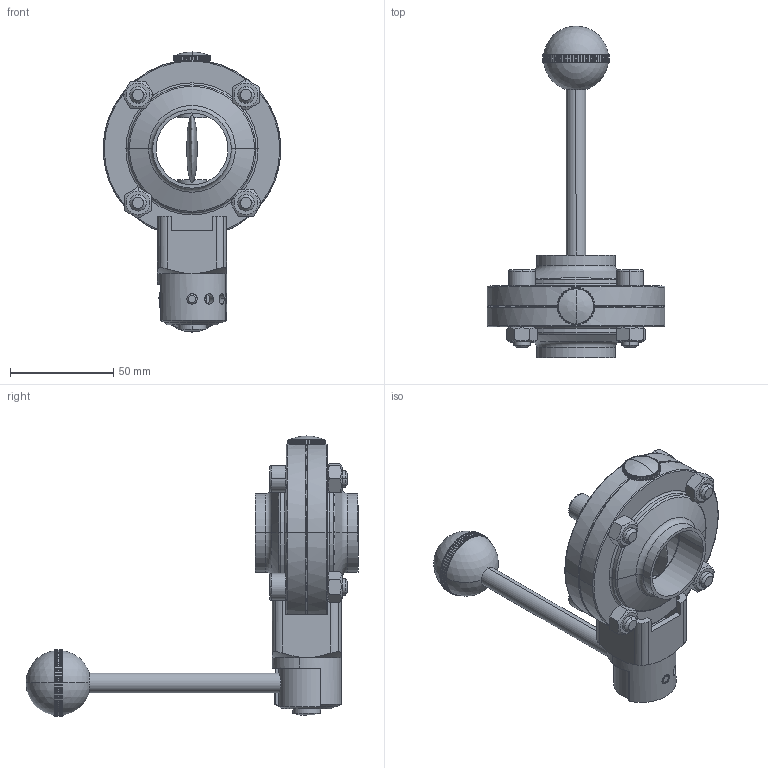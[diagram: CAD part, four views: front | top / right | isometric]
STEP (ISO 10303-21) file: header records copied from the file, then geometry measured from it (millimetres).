
FILE_DESCRIPTION (( 'STEP AP214' ), '1' );
FILE_NAME ('51W1.5M_PH.STEP', '2025-08-26T12:46:41', ( '' ), ( '' ), 'SwSTEP 2.0', 'SolidWorks 2023', '' );
FILE_SCHEMA (( 'AUTOMOTIVE_DESIGN' ));
Length unit declared in the file: inch
Products named in the file (3): 51W1.5M_PH; 51-BVP-PH-1.0-2.5; 51W1.5M_STH 2024 NO HANDLE
Assembly tree (2 placements, depth 2):
  51W1.5M_PH
    51W1.5M_STH 2024 NO HANDLE
    51-BVP-PH-1.0-2.5
Bounding box: 86.1 x 160.9 x 135.7 mm (x, y, z)
Volume: 52014.7 mm3; surface area: 58615.2 mm2
Topology: 7 solids, 370 shells, 2796 faces, 7529 edges, 5123 vertices
Faces by surface type: cylinder 1478, sphere 603, plane 529, cone 82, torus 72, bspline 32
Entity records: 104616 total; most frequent: CARTESIAN_POINT 36937, DIRECTION 14719, ORIENTED_EDGE 12871, EDGE_CURVE 7395, AXIS2_PLACEMENT_3D 6059, VERTEX_POINT 5046, CIRCLE 3289, EDGE_LOOP 2916
